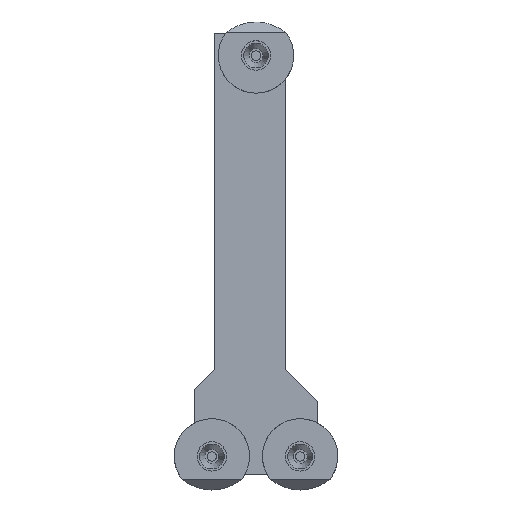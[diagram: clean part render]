
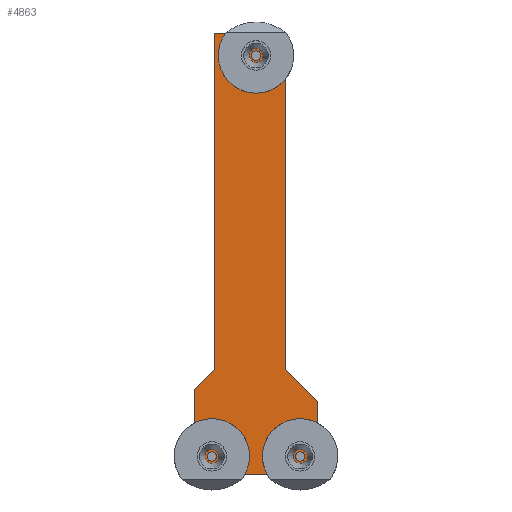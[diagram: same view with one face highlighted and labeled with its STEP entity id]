
A CAD part, top view. The second image highlights one B-rep face of the part: STEP entity #4863.
In plain terms, the highlighted planar face has unit normal (0, 0, 1).
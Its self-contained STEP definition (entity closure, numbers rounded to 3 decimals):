
#53=FACE_BOUND('',#351,.T.);
#54=FACE_BOUND('',#352,.T.);
#55=FACE_BOUND('',#353,.T.);
#63=CIRCLE('',#5166,0.8);
#64=CIRCLE('',#5167,0.8);
#65=CIRCLE('',#5168,0.8);
#66=CIRCLE('',#5169,0.8);
#67=CIRCLE('',#5170,0.8);
#68=CIRCLE('',#5171,0.8);
#101=FACE_OUTER_BOUND('',#350,.T.);
#350=EDGE_LOOP('',(#3176,#3177,#3178,#3179,#3180,#3181,#3182,#3183));
#351=EDGE_LOOP('',(#3184,#3185));
#352=EDGE_LOOP('',(#3186,#3187));
#353=EDGE_LOOP('',(#3188,#3189));
#607=LINE('',#6736,#1295);
#611=LINE('',#6744,#1299);
#614=LINE('',#6750,#1302);
#615=LINE('',#6752,#1303);
#616=LINE('',#6754,#1304);
#617=LINE('',#6756,#1305);
#618=LINE('',#6758,#1306);
#619=LINE('',#6759,#1307);
#1295=VECTOR('',#5461,10.);
#1299=VECTOR('',#5467,10.);
#1302=VECTOR('',#5472,10.);
#1303=VECTOR('',#5473,10.);
#1304=VECTOR('',#5474,10.);
#1305=VECTOR('',#5475,10.);
#1306=VECTOR('',#5476,10.);
#1307=VECTOR('',#5477,10.);
#1983=VERTEX_POINT('',#6734);
#1984=VERTEX_POINT('',#6735);
#1987=VERTEX_POINT('',#6743);
#1989=VERTEX_POINT('',#6749);
#1990=VERTEX_POINT('',#6751);
#1991=VERTEX_POINT('',#6753);
#1992=VERTEX_POINT('',#6755);
#1993=VERTEX_POINT('',#6757);
#1994=VERTEX_POINT('',#6760);
#1995=VERTEX_POINT('',#6761);
#1996=VERTEX_POINT('',#6764);
#1997=VERTEX_POINT('',#6765);
#1998=VERTEX_POINT('',#6768);
#1999=VERTEX_POINT('',#6769);
#2440=EDGE_CURVE('',#1983,#1984,#607,.T.);
#2444=EDGE_CURVE('',#1984,#1987,#611,.T.);
#2447=EDGE_CURVE('',#1983,#1989,#614,.T.);
#2448=EDGE_CURVE('',#1989,#1990,#615,.T.);
#2449=EDGE_CURVE('',#1990,#1991,#616,.T.);
#2450=EDGE_CURVE('',#1992,#1991,#617,.T.);
#2451=EDGE_CURVE('',#1993,#1992,#618,.T.);
#2452=EDGE_CURVE('',#1987,#1993,#619,.T.);
#2453=EDGE_CURVE('',#1994,#1995,#63,.T.);
#2454=EDGE_CURVE('',#1995,#1994,#64,.T.);
#2455=EDGE_CURVE('',#1996,#1997,#65,.T.);
#2456=EDGE_CURVE('',#1997,#1996,#66,.T.);
#2457=EDGE_CURVE('',#1998,#1999,#67,.T.);
#2458=EDGE_CURVE('',#1999,#1998,#68,.T.);
#3176=ORIENTED_EDGE('',*,*,#2440,.F.);
#3177=ORIENTED_EDGE('',*,*,#2447,.T.);
#3178=ORIENTED_EDGE('',*,*,#2448,.T.);
#3179=ORIENTED_EDGE('',*,*,#2449,.T.);
#3180=ORIENTED_EDGE('',*,*,#2450,.F.);
#3181=ORIENTED_EDGE('',*,*,#2451,.F.);
#3182=ORIENTED_EDGE('',*,*,#2452,.F.);
#3183=ORIENTED_EDGE('',*,*,#2444,.F.);
#3184=ORIENTED_EDGE('',*,*,#2453,.T.);
#3185=ORIENTED_EDGE('',*,*,#2454,.T.);
#3186=ORIENTED_EDGE('',*,*,#2455,.T.);
#3187=ORIENTED_EDGE('',*,*,#2456,.T.);
#3188=ORIENTED_EDGE('',*,*,#2457,.T.);
#3189=ORIENTED_EDGE('',*,*,#2458,.T.);
#4626=PLANE('',#5165);
#4863=ADVANCED_FACE('',(#101,#53,#54,#55),#4626,.T.);
#5165=AXIS2_PLACEMENT_3D('',#6748,#5470,#5471);
#5166=AXIS2_PLACEMENT_3D('',#6762,#5478,#5479);
#5167=AXIS2_PLACEMENT_3D('',#6763,#5480,#5481);
#5168=AXIS2_PLACEMENT_3D('',#6766,#5482,#5483);
#5169=AXIS2_PLACEMENT_3D('',#6767,#5484,#5485);
#5170=AXIS2_PLACEMENT_3D('',#6770,#5486,#5487);
#5171=AXIS2_PLACEMENT_3D('',#6771,#5488,#5489);
#5461=DIRECTION('',(0.707,-0.707,0.));
#5467=DIRECTION('',(0.,-1.,0.));
#5470=DIRECTION('center_axis',(0.,0.,
1.));
#5471=DIRECTION('ref_axis',(0.,-1.,0.));
#5472=DIRECTION('',(0.,1.,0.));
#5473=DIRECTION('',(-1.,0.,0.));
#5474=DIRECTION('',(0.,-1.,0.));
#5475=DIRECTION('',(0.707,0.707,0.));
#5476=DIRECTION('',(0.,1.,0.));
#5477=DIRECTION('',(-1.,0.,0.));
#5478=DIRECTION('center_axis',(0.,0.,
-1.));
#5479=DIRECTION('ref_axis',(1.,0.,0.));
#5480=DIRECTION('center_axis',(0.,0.,
-1.));
#5481=DIRECTION('ref_axis',(1.,0.,0.));
#5482=DIRECTION('center_axis',(0.,0.,
-1.));
#5483=DIRECTION('ref_axis',(1.,0.,0.));
#5484=DIRECTION('center_axis',(0.,0.,
-1.));
#5485=DIRECTION('ref_axis',(1.,0.,0.));
#5486=DIRECTION('center_axis',(0.,0.,
-1.));
#5487=DIRECTION('ref_axis',(1.,0.,0.));
#5488=DIRECTION('center_axis',(0.,0.,
-1.));
#5489=DIRECTION('ref_axis',(1.,0.,0.));
#6734=CARTESIAN_POINT('',(12.5,9.852,2.4));
#6735=CARTESIAN_POINT('',(18.,4.352,2.4));
#6736=CARTESIAN_POINT('',(-4.75,27.102,2.4));
#6743=CARTESIAN_POINT('',(18.,-8.,2.4));
#6744=CARTESIAN_POINT('',(18.,0.,2.4));
#6748=CARTESIAN_POINT('Origin',(0.,71.852,
2.4));
#6749=CARTESIAN_POINT('',(12.5,66.852,2.4));
#6750=CARTESIAN_POINT('',(12.5,56.352,2.4));
#6751=CARTESIAN_POINT('',(0.5,66.852,2.4));
#6752=CARTESIAN_POINT('',(3.75,66.852,2.4));
#6753=CARTESIAN_POINT('',(0.5,9.852,2.4));
#6754=CARTESIAN_POINT('',(0.5,56.352,2.4));
#6755=CARTESIAN_POINT('',(-3.,6.352,2.4));
#6756=CARTESIAN_POINT('',(15.,24.352,2.4));
#6757=CARTESIAN_POINT('',(-3.,-8.,2.4));
#6758=CARTESIAN_POINT('',(-3.,12.276,2.4));
#6759=CARTESIAN_POINT('',(3.75,-8.,2.4));
#6760=CARTESIAN_POINT('',(8.3,63.116,2.4));
#6761=CARTESIAN_POINT('',(6.7,63.116,2.4));
#6762=CARTESIAN_POINT('Origin',(7.5,63.116,2.4));
#6763=CARTESIAN_POINT('Origin',(7.5,63.116,2.4));
#6764=CARTESIAN_POINT('',(0.8,-5.,2.4));
#6765=CARTESIAN_POINT('',(-0.8,-5.,2.4));
#6766=CARTESIAN_POINT('Origin',(0.,-5.,2.4));
#6767=CARTESIAN_POINT('Origin',(0.,-5.,2.4));
#6768=CARTESIAN_POINT('',(15.8,-5.,2.4));
#6769=CARTESIAN_POINT('',(14.2,-5.,2.4));
#6770=CARTESIAN_POINT('Origin',(15.,-5.,2.4));
#6771=CARTESIAN_POINT('Origin',(15.,-5.,2.4));
